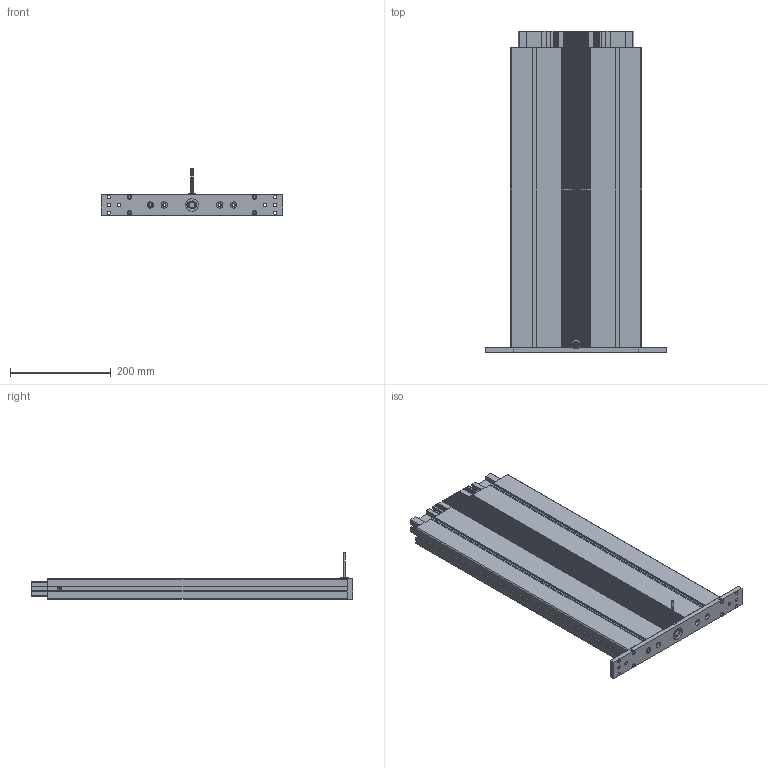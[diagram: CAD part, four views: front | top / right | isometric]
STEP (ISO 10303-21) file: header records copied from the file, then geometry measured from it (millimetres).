
FILE_DESCRIPTION(/* description */ ('Unknown'),/* implementation_level */ '2;1');
FILE_NAME(/* name */ '306.00385 Tischbein TT 1840 A637 eingefahren',/* time_stamp */ '2018-02-06T17:12:30+01:00',/* author */ ('Unknown'),/* organization */ ('Unknown'),/* preprocessor_version */ 'ST-DEVELOPER v16.7',/* originating_system */ 'DEX',/* authorisation */ $);
FILE_SCHEMA (('AUTOMOTIVE_DESIGN {1 0 10303 214 3 1 1}'));
Products named in the file (17): 306.00385; 115.00064_oa_0; 119.00201; 119.00152; 142.00188; 113.00002_70mm; 124.00004; 142.00166; 109.00025_oa_1; 115.00008_oa_2; 125.00063; 142.00021; 125.00021; 126.00102; 142.00081; 143.00045; 142.00031
Assembly tree (20 placements, depth 3):
  306.00385
    115.00064_oa_0
      119.00201
      119.00152
      142.00188  x2
    113.00002_70mm
    124.00004
    142.00166  x4
    109.00025_oa_1
      115.00008_oa_2
      125.00063
      142.00021
      125.00021
    126.00102
    142.00081
    143.00045
    142.00031
Bounding box: 360 x 637 x 91.5 mm (x, y, z)
Volume: 2494101 mm3; surface area: 1887378.9 mm2
Topology: 17 solids, 17 shells, 2087 faces, 6069 edges, 4042 vertices
Faces by surface type: plane 1345, cylinder 707, cone 20, torus 14, sphere 1
Full cylindrical faces by diameter (mm): 1.8 x2, 2.2 x1, 2.99 x1, 3.242 x2, 3.5 x1, 4 x3, 4.1 x1, 4.2 x1, 5 x4, 5.5 x4, 6 x1, 6.6 x4, 6.647 x8, 6.917 x2, 8 x5, 8.5 x4, 8.7 x4, 9 x1, 10 x1, 12 x1, 12.5 x5, 13 x2, 13.5 x1, 14.4 x1, 17.9 x2, 25 x1, 30 x1
Entity records: 75043 total; most frequent: CARTESIAN_POINT 12500, ORIENTED_EDGE 11712, DIRECTION 11355, EDGE_CURVE 5856, LINE 4079, VECTOR 4079, VERTEX_POINT 3948, AXIS2_PLACEMENT_3D 3638
